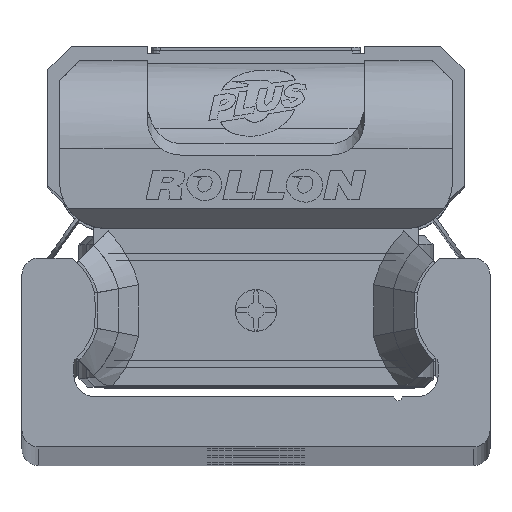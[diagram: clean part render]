
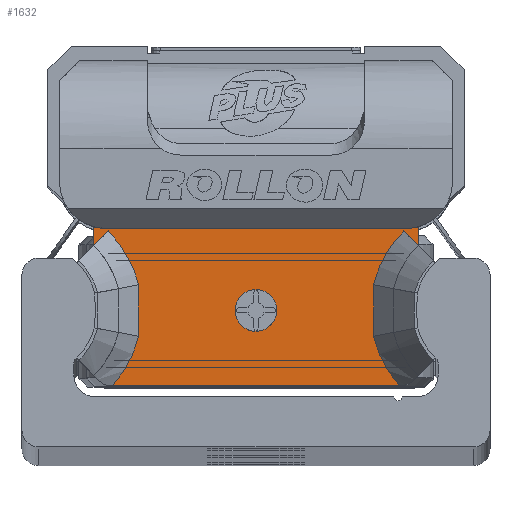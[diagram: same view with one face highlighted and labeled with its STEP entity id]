
A CAD part, top view. The second image highlights one B-rep face of the part: STEP entity #1632.
In plain terms, the highlighted planar face has unit normal (0, 0, 1) as drawn and (0, 0, -1) by its records, which use the part's own axes.
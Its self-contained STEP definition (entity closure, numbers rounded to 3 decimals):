
#1632 = ADVANCED_FACE( '', ( #3526, #3527 ), #3528, .F. );
#3526 = FACE_BOUND( '', #5752, .T. );
#3527 = FACE_OUTER_BOUND( '', #5753, .T. );
#3528 = PLANE( '', #5754 );
#5752 = EDGE_LOOP( '', ( #10158 ) );
#5753 = EDGE_LOOP( '', ( #10159, #10160, #10161, #10162, #10163, #10164, #10165, #10166, #10167, #10168, #10169, #10170, #10171, #10172 ) );
#5754 = AXIS2_PLACEMENT_3D( '', #10173, #10174, #10175 );
#10158 = ORIENTED_EDGE( '', *, *, #13663, .T. );
#10159 = ORIENTED_EDGE( '', *, *, #12434, .F. );
#10160 = ORIENTED_EDGE( '', *, *, #13837, .T. );
#10161 = ORIENTED_EDGE( '', *, *, #13838, .T. );
#10162 = ORIENTED_EDGE( '', *, *, #13839, .T. );
#10163 = ORIENTED_EDGE( '', *, *, #13710, .T. );
#10164 = ORIENTED_EDGE( '', *, *, #13840, .T. );
#10165 = ORIENTED_EDGE( '', *, *, #12950, .T. );
#10166 = ORIENTED_EDGE( '', *, *, #12463, .T. );
#10167 = ORIENTED_EDGE( '', *, *, #13736, .T. );
#10168 = ORIENTED_EDGE( '', *, *, #13841, .T. );
#10169 = ORIENTED_EDGE( '', *, *, #13842, .T. );
#10170 = ORIENTED_EDGE( '', *, *, #13067, .T. );
#10171 = ORIENTED_EDGE( '', *, *, #13485, .T. );
#10172 = ORIENTED_EDGE( '', *, *, #13843, .T. );
#10173 = CARTESIAN_POINT( '', ( 9.7, 4.89, -10.6 ) );
#10174 = DIRECTION( '', ( 0., 0., 1. ) );
#10175 = DIRECTION( '', ( 1., 0., 0. ) );
#12434 = EDGE_CURVE( '', #14876, #14608, #14878, .T. );
#12463 = EDGE_CURVE( '', #14924, #14922, #14925, .T. );
#12950 = EDGE_CURVE( '', #15727, #14924, #15728, .T. );
#13067 = EDGE_CURVE( '', #15913, #15911, #15914, .T. );
#13485 = EDGE_CURVE( '', #15911, #16527, #16528, .T. );
#13663 = EDGE_CURVE( '', #16772, #16772, #16773, .T. );
#13710 = EDGE_CURVE( '', #16838, #16029, #16839, .T. );
#13736 = EDGE_CURVE( '', #14922, #14583, #16872, .T. );
#13837 = EDGE_CURVE( '', #14876, #16998, #16999, .T. );
#13838 = EDGE_CURVE( '', #16998, #17000, #17001, .T. );
#13839 = EDGE_CURVE( '', #17000, #16838, #17002, .T. );
#13840 = EDGE_CURVE( '', #16029, #15727, #17003, .T. );
#13841 = EDGE_CURVE( '', #14583, #16827, #17004, .T. );
#13842 = EDGE_CURVE( '', #16827, #15913, #17005, .T. );
#13843 = EDGE_CURVE( '', #16527, #14608, #17006, .T. );
#14583 = VERTEX_POINT( '', #17907 );
#14608 = VERTEX_POINT( '', #17953 );
#14876 = VERTEX_POINT( '', #18350 );
#14878 = LINE( '', #18353, #18354 );
#14922 = VERTEX_POINT( '', #18406 );
#14924 = VERTEX_POINT( '', #18409 );
#14925 = B_SPLINE_CURVE_WITH_KNOTS( '', 2, ( #18410, #18411, #18412 ), .UNSPECIFIED., .F., .F., ( 3, 3 ), ( 0., 1. ), .UNSPECIFIED. );
#15727 = VERTEX_POINT( '', #19639 );
#15728 = B_SPLINE_CURVE_WITH_KNOTS( '', 2, ( #19640, #19641, #19642, #19643, #19644 ), .UNSPECIFIED., .F., .F., ( 3, 2, 3 ), ( 0., 0.5, 1. ), .UNSPECIFIED. );
#15911 = VERTEX_POINT( '', #19878 );
#15913 = VERTEX_POINT( '', #19881 );
#15914 = B_SPLINE_CURVE_WITH_KNOTS( '', 2, ( #19882, #19883, #19884 ), .UNSPECIFIED., .F., .F., ( 3, 3 ), ( 0., 1. ), .UNSPECIFIED. );
#16029 = VERTEX_POINT( '', #20043 );
#16527 = VERTEX_POINT( '', #20748 );
#16528 = B_SPLINE_CURVE_WITH_KNOTS( '', 2, ( #20749, #20750, #20751 ), .UNSPECIFIED., .F., .F., ( 3, 3 ), ( 0., 1. ), .UNSPECIFIED. );
#16772 = VERTEX_POINT( '', #21107 );
#16773 = CIRCLE( '', #21108, 1.25 );
#16827 = VERTEX_POINT( '', #21194 );
#16838 = VERTEX_POINT( '', #21212 );
#16839 = LINE( '', #21213, #21214 );
#16872 = B_SPLINE_CURVE_WITH_KNOTS( '', 2, ( #21260, #21261, #21262 ), .UNSPECIFIED., .F., .F., ( 3, 3 ), ( 0., 1. ), .UNSPECIFIED. );
#16998 = VERTEX_POINT( '', #21443 );
#16999 = CIRCLE( '', #21444, 2.8 );
#17000 = VERTEX_POINT( '', #21445 );
#17001 = LINE( '', #21446, #21447 );
#17002 = CIRCLE( '', #21448, 2.8 );
#17003 = LINE( '', #21449, #21450 );
#17004 = LINE( '', #21451, #21452 );
#17005 = B_SPLINE_CURVE_WITH_KNOTS( '', 2, ( #21453, #21454, #21455 ), .UNSPECIFIED., .F., .F., ( 3, 3 ), ( 0.1, 1. ), .UNSPECIFIED. );
#17006 = LINE( '', #21456, #21457 );
#17907 = CARTESIAN_POINT( '', ( 8.59, -4.893, -10.6 ) );
#17953 = CARTESIAN_POINT( '', ( -9.7, 3.494, -10.6 ) );
#18350 = CARTESIAN_POINT( '', ( -9.7, 4.612, -10.6 ) );
#18353 = CARTESIAN_POINT( '', ( -9.7, 4.89, -10.6 ) );
#18354 = VECTOR( '', #22560, 1000. );
#18406 = CARTESIAN_POINT( '', ( 7.031, -1.944, -10.6 ) );
#18409 = CARTESIAN_POINT( '', ( 7.031, 1.144, -10.6 ) );
#18410 = CARTESIAN_POINT( '', ( 7.031, 1.144, -10.6 ) );
#18411 = CARTESIAN_POINT( '', ( 6.929, -0.4, -10.6 ) );
#18412 = CARTESIAN_POINT( '', ( 7.031, -1.944, -10.6 ) );
#19639 = CARTESIAN_POINT( '', ( 8.853, 4.366, -10.6 ) );
#19640 = CARTESIAN_POINT( '', ( 8.853, 4.366, -10.6 ) );
#19641 = CARTESIAN_POINT( '', ( 8.182, 3.708, -10.6 ) );
#19642 = CARTESIAN_POINT( '', ( 7.715, 2.883, -10.6 ) );
#19643 = CARTESIAN_POINT( '', ( 7.249, 2.058, -10.6 ) );
#19644 = CARTESIAN_POINT( '', ( 7.031, 1.144, -10.6 ) );
#19878 = CARTESIAN_POINT( '', ( -7.031, 1.144, -10.6 ) );
#19881 = CARTESIAN_POINT( '', ( -7.031, -1.944, -10.6 ) );
#19882 = CARTESIAN_POINT( '', ( -7.031, -1.944, -10.6 ) );
#19883 = CARTESIAN_POINT( '', ( -6.929, -0.4, -10.6 ) );
#19884 = CARTESIAN_POINT( '', ( -7.031, 1.144, -10.6 ) );
#20043 = CARTESIAN_POINT( '', ( 9.7, 3.497, -10.6 ) );
#20748 = CARTESIAN_POINT( '', ( -8.853, 4.366, -10.6 ) );
#20749 = CARTESIAN_POINT( '', ( -7.031, 1.144, -10.6 ) );
#20750 = CARTESIAN_POINT( '', ( -7.477, 3.018, -10.6 ) );
#20751 = CARTESIAN_POINT( '', ( -8.853, 4.366, -10.6 ) );
#21107 = CARTESIAN_POINT( '', ( 1.25, -0.39, -10.6 ) );
#21108 = AXIS2_PLACEMENT_3D( '', #24194, #24195, #24196 );
#21194 = CARTESIAN_POINT( '', ( -8.59, -4.893, -10.6 ) );
#21212 = CARTESIAN_POINT( '', ( 9.7, 4.612, -10.6 ) );
#21213 = CARTESIAN_POINT( '', ( 9.7, 4.89, -10.6 ) );
#21214 = VECTOR( '', #24247, 1000. );
#21260 = CARTESIAN_POINT( '', ( 7.031, -1.944, -10.6 ) );
#21261 = CARTESIAN_POINT( '', ( 7.429, -3.615, -10.6 ) );
#21262 = CARTESIAN_POINT( '', ( 8.588, -4.89, -10.6 ) );
#21443 = CARTESIAN_POINT( '', ( -8.95, 4.51, -10.6 ) );
#21444 = AXIS2_PLACEMENT_3D( '', #24360, #24361, #24362 );
#21445 = CARTESIAN_POINT( '', ( 8.95, 4.51, -10.6 ) );
#21446 = CARTESIAN_POINT( '', ( 9.7, 4.51, -10.6 ) );
#21447 = VECTOR( '', #24363, 1000. );
#21448 = AXIS2_PLACEMENT_3D( '', #24364, #24365, #24366 );
#21449 = CARTESIAN_POINT( '', ( 9.7, 3.501, -10.6 ) );
#21450 = VECTOR( '', #24367, 1000. );
#21451 = CARTESIAN_POINT( '', ( 9.7, -4.89, -10.6 ) );
#21452 = VECTOR( '', #24368, 1000. );
#21453 = CARTESIAN_POINT( '', ( -8.587, -4.89, -10.6 ) );
#21454 = CARTESIAN_POINT( '', ( -7.432, -3.63, -10.6 ) );
#21455 = CARTESIAN_POINT( '', ( -7.031, -1.944, -10.6 ) );
#21456 = CARTESIAN_POINT( '', ( -8.853, 4.366, -10.6 ) );
#21457 = VECTOR( '', #24369, 1000. );
#22560 = DIRECTION( '', ( 0., -1., 0. ) );
#24194 = CARTESIAN_POINT( '', ( 0., -0.39, -10.6 ) );
#24195 = DIRECTION( '', ( 0., 0., 1. ) );
#24196 = DIRECTION( '', ( 1., 0., 0. ) );
#24247 = DIRECTION( '', ( 0., -1., 0. ) );
#24360 = CARTESIAN_POINT( '', ( -8.95, 7.31, -10.6 ) );
#24361 = DIRECTION( '', ( 0., 0., 1. ) );
#24362 = DIRECTION( '', ( 1., 0., 0. ) );
#24363 = DIRECTION( '', ( 1., 0., 0. ) );
#24364 = CARTESIAN_POINT( '', ( 8.95, 7.31, -10.6 ) );
#24365 = DIRECTION( '', ( 0., 0., 1. ) );
#24366 = DIRECTION( '', ( 1., 0., 0. ) );
#24367 = DIRECTION( '', ( -0.7, 0.714, 0. ) );
#24368 = DIRECTION( '', ( -1., 0., 0. ) );
#24369 = DIRECTION( '', ( -0.7, -0.714, 0. ) );
